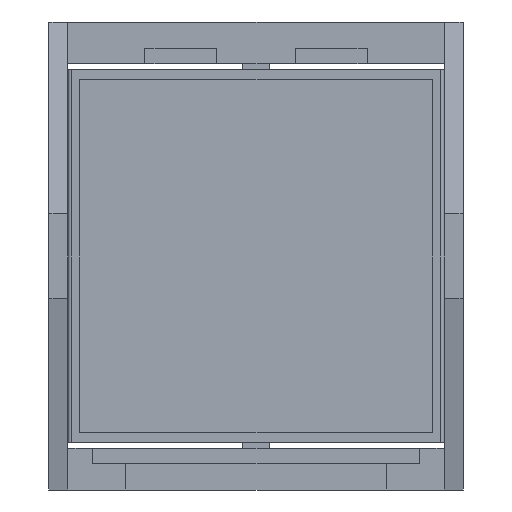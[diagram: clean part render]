
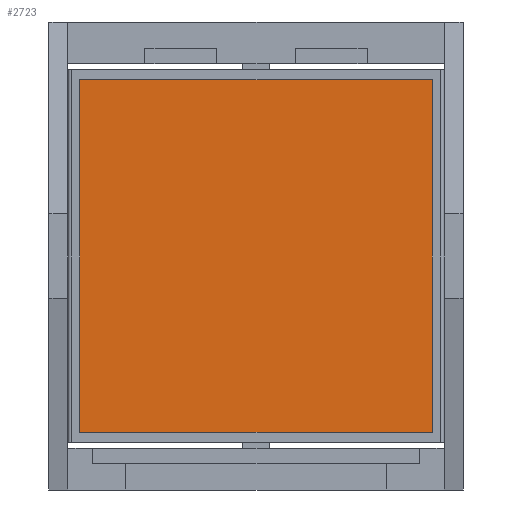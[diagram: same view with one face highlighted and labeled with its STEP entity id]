
A CAD part, front view. The second image highlights one B-rep face of the part: STEP entity #2723.
In plain terms, the highlighted planar face has unit normal (0, -1, 0).
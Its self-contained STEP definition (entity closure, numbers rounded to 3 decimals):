
#249 = DIRECTION ( 'NONE',  ( 0., 0., -1. ) ) ;
#300 = EDGE_LOOP ( 'NONE', ( #6069, #2347, #4390, #1006 ) ) ;
#310 = EDGE_CURVE ( 'NONE', #6951, #3787, #7264, .T. ) ;
#759 = CARTESIAN_POINT ( 'NONE',  ( -16.942, -2.335, 16.835 ) ) ;
#1006 = ORIENTED_EDGE ( 'NONE', *, *, #6823, .F. ) ;
#2279 = VECTOR ( 'NONE', #4202, 1000. ) ;
#2315 = CARTESIAN_POINT ( 'NONE',  ( -16.942, -2.335, -10.165 ) ) ;
#2347 = ORIENTED_EDGE ( 'NONE', *, *, #310, .F. ) ;
#2474 = VERTEX_POINT ( 'NONE', #8074 ) ;
#2710 = FACE_OUTER_BOUND ( 'NONE', #300, .T. ) ;
#2723 = ADVANCED_FACE ( 'NONE', ( #2710 ), #6321, .F. ) ;
#2986 = EDGE_CURVE ( 'NONE', #3787, #2474, #6665, .T. ) ;
#3354 = CARTESIAN_POINT ( 'NONE',  ( 10.058, -2.335, -10.165 ) ) ;
#3662 = DIRECTION ( 'NONE',  ( 0., 0., 1. ) ) ;
#3787 = VERTEX_POINT ( 'NONE', #5133 ) ;
#3897 = DIRECTION ( 'NONE',  ( 0., 0., 1. ) ) ;
#3976 = CARTESIAN_POINT ( 'NONE',  ( -16.942, -2.335, 16.835 ) ) ;
#4202 = DIRECTION ( 'NONE',  ( -1., 0., 0. ) ) ;
#4362 = AXIS2_PLACEMENT_3D ( 'NONE', #3976, #7004, #3897 ) ;
#4371 = LINE ( 'NONE', #759, #6164 ) ;
#4390 = ORIENTED_EDGE ( 'NONE', *, *, #5806, .F. ) ;
#4504 = VECTOR ( 'NONE', #3662, 1000. ) ;
#5133 = CARTESIAN_POINT ( 'NONE',  ( -16.942, -2.335, -10.165 ) ) ;
#5406 = VERTEX_POINT ( 'NONE', #7137 ) ;
#5805 = CARTESIAN_POINT ( 'NONE',  ( 10.058, -2.335, -10.165 ) ) ;
#5806 = EDGE_CURVE ( 'NONE', #5406, #6951, #5988, .T. ) ;
#5988 = LINE ( 'NONE', #3354, #7175 ) ;
#6069 = ORIENTED_EDGE ( 'NONE', *, *, #2986, .F. ) ;
#6164 = VECTOR ( 'NONE', #7413, 1000. ) ;
#6321 = PLANE ( 'NONE',  #4362 ) ;
#6665 = LINE ( 'NONE', #2315, #4504 ) ;
#6747 = CARTESIAN_POINT ( 'NONE',  ( -16.942, -2.335, -10.165 ) ) ;
#6823 = EDGE_CURVE ( 'NONE', #2474, #5406, #4371, .T. ) ;
#6951 = VERTEX_POINT ( 'NONE', #5805 ) ;
#7004 = DIRECTION ( 'NONE',  ( 0., 1., 0. ) ) ;
#7137 = CARTESIAN_POINT ( 'NONE',  ( 10.058, -2.335, 16.835 ) ) ;
#7175 = VECTOR ( 'NONE', #249, 1000. ) ;
#7264 = LINE ( 'NONE', #6747, #2279 ) ;
#7413 = DIRECTION ( 'NONE',  ( 1., 0., 0. ) ) ;
#8074 = CARTESIAN_POINT ( 'NONE',  ( -16.942, -2.335, 16.835 ) ) ;
